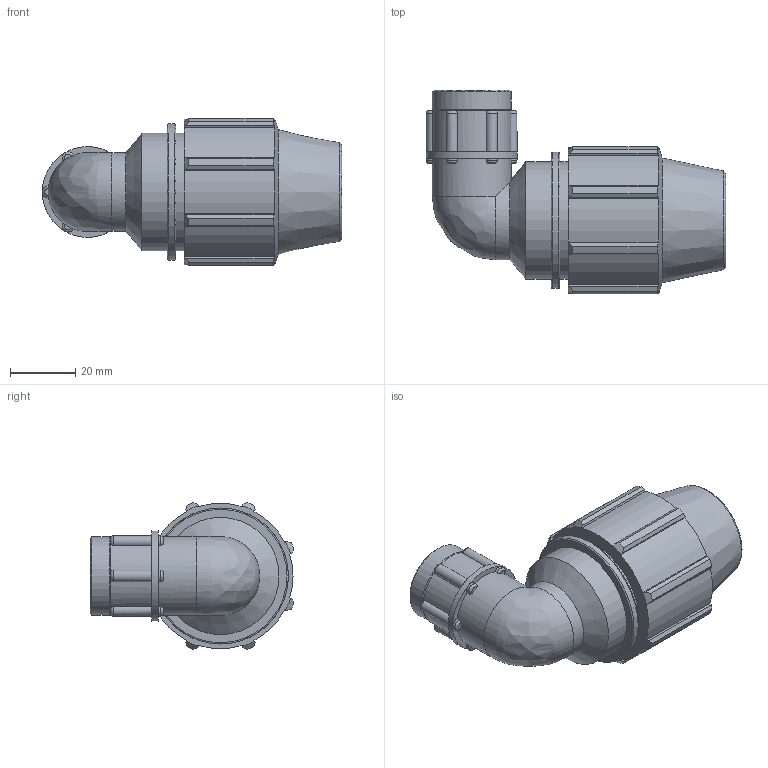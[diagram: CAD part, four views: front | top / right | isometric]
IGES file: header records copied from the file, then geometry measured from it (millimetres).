
Global section: file name: 071500020005_181500020005_0715060200050A.ipt; native system: Autodesk Inventor 2015; preprocessor: unknown; author: KIM; date: 20170606.172204; units: millimetre
Bounding box: 91.93 x 62.58 x 45.16 mm (x, y, z)
Volume: 74434.9 mm3; surface area: 22232.1 mm2
Topology: 1 solids, 1 shells, 138 faces, 380 edges, 248 vertices
Faces by surface type: plane 60, cylinder 41, revolution 22, cone 13, bspline 2
Full cylindrical faces by diameter (mm): 24.22 x2, 27.853 x1, 36 x2, 41.76 x1
